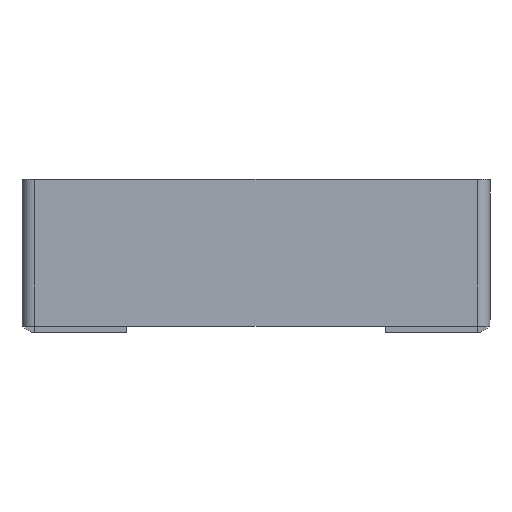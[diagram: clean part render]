
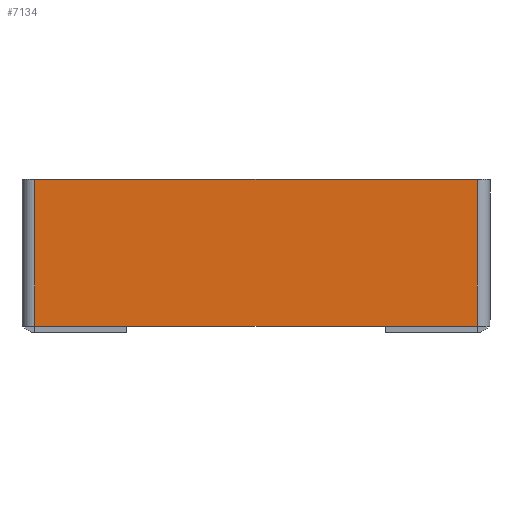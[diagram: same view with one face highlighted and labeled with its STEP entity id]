
A CAD part, front view. The second image highlights one B-rep face of the part: STEP entity #7134.
In plain terms, the highlighted planar face has unit normal (0, -1, 0).
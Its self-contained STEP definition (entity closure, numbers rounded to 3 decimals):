
#359 = DIRECTION ( 'NONE',  ( -1., 0., 0. ) ) ;
#662 = VERTEX_POINT ( 'NONE', #9291 ) ;
#728 = EDGE_LOOP ( 'NONE', ( #6583, #10754, #2293, #4553 ) ) ;
#772 = VECTOR ( 'NONE', #8688, 1000. ) ;
#1586 = VERTEX_POINT ( 'NONE', #7078 ) ;
#1608 = EDGE_CURVE ( 'NONE', #662, #7810, #5615, .T. ) ;
#1827 = VECTOR ( 'NONE', #5634, 1000. ) ;
#2122 = DIRECTION ( 'NONE',  ( 0., 0., 1. ) ) ;
#2191 = EDGE_CURVE ( 'NONE', #1586, #7810, #3218, .T. ) ;
#2293 = ORIENTED_EDGE ( 'NONE', *, *, #2191, .T. ) ;
#2394 = AXIS2_PLACEMENT_3D ( 'NONE', #5379, #6226, #2122 ) ;
#2550 = VECTOR ( 'NONE', #359, 1000. ) ;
#2816 = CARTESIAN_POINT ( 'NONE',  ( 87.5, -2.5, 0. ) ) ;
#3218 = LINE ( 'NONE', #4238, #5167 ) ;
#3704 = CARTESIAN_POINT ( 'NONE',  ( -90., -2.5, -58. ) ) ;
#4017 = VERTEX_POINT ( 'NONE', #9542 ) ;
#4238 = CARTESIAN_POINT ( 'NONE',  ( 87.5, -2.5, -58. ) ) ;
#4553 = ORIENTED_EDGE ( 'NONE', *, *, #1608, .F. ) ;
#4701 = EDGE_CURVE ( 'NONE', #1586, #4017, #4771, .T. ) ;
#4771 = LINE ( 'NONE', #3704, #2550 ) ;
#4836 = FACE_OUTER_BOUND ( 'NONE', #728, .T. ) ;
#5167 = VECTOR ( 'NONE', #6963, 1000. ) ;
#5379 = CARTESIAN_POINT ( 'NONE',  ( 0., -2.5, 0. ) ) ;
#5615 = LINE ( 'NONE', #10328, #772 ) ;
#5634 = DIRECTION ( 'NONE',  ( 0., 0., -1. ) ) ;
#6226 = DIRECTION ( 'NONE',  ( 0., 1., 0. ) ) ;
#6583 = ORIENTED_EDGE ( 'NONE', *, *, #6712, .T. ) ;
#6712 = EDGE_CURVE ( 'NONE', #662, #4017, #6934, .T. ) ;
#6934 = LINE ( 'NONE', #10738, #1827 ) ;
#6963 = DIRECTION ( 'NONE',  ( 0., 0., 1. ) ) ;
#7078 = CARTESIAN_POINT ( 'NONE',  ( 87.5, -2.5, -58. ) ) ;
#7134 = ADVANCED_FACE ( 'NONE', ( #4836 ), #10378, .F. ) ;
#7810 = VERTEX_POINT ( 'NONE', #2816 ) ;
#8688 = DIRECTION ( 'NONE',  ( 1., 0., 0. ) ) ;
#9291 = CARTESIAN_POINT ( 'NONE',  ( -87.5, -2.5, 0. ) ) ;
#9542 = CARTESIAN_POINT ( 'NONE',  ( -87.5, -2.5, -58. ) ) ;
#10328 = CARTESIAN_POINT ( 'NONE',  ( -90., -2.5, 0. ) ) ;
#10378 = PLANE ( 'NONE',  #2394 ) ;
#10738 = CARTESIAN_POINT ( 'NONE',  ( -87.5, -2.5, 0. ) ) ;
#10754 = ORIENTED_EDGE ( 'NONE', *, *, #4701, .F. ) ;
